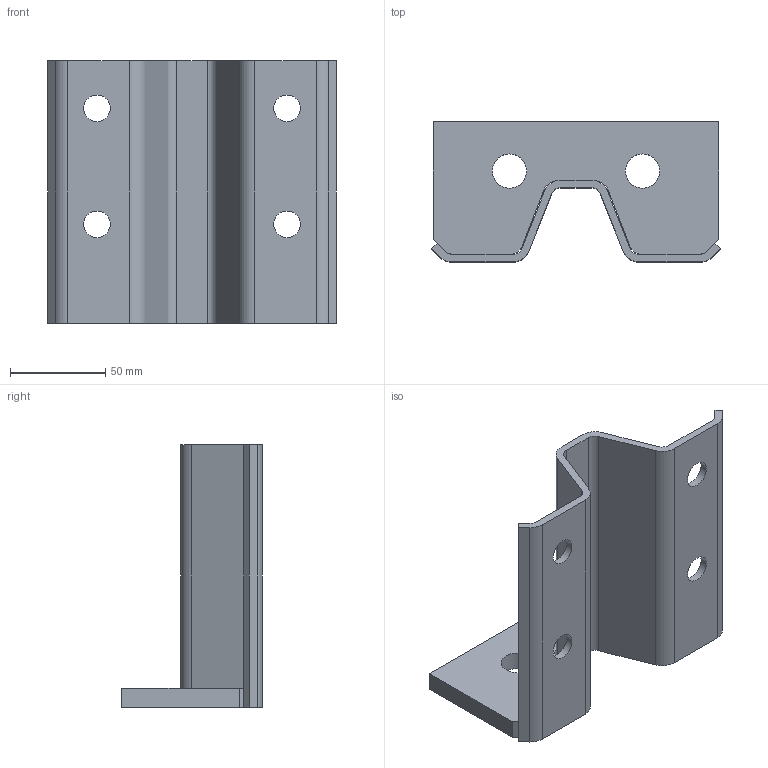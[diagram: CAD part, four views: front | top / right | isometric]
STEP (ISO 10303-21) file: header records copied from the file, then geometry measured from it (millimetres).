
FILE_DESCRIPTION(/* description */ (''),/* implementation_level */ '2;1');
FILE_NAME(/* name */ 'ZB155W70.stp',/* time_stamp */ '2023-07-03T11:24:41+02:00',/* author */ ('woriedl'),/* organization */ (''),/* preprocessor_version */ 'ST-DEVELOPER v19.2',/* originating_system */ 'AutoCAD Mechanical',/* authorisation */ '');
FILE_SCHEMA (('AUTOMOTIVE_DESIGN { 1 0 10303 214 3 1 1 }'));
Length unit declared in the file: centimetre
Products named in the file (1): Product
Bounding box: 151.72 x 74 x 138 mm (x, y, z)
Volume: 190637 mm3; surface area: 80144.6 mm2
Topology: 2 solids, 2 shells, 54 faces, 150 edges, 100 vertices
Faces by surface type: plane 30, cylinder 24
Full cylindrical faces by diameter (mm): 14 x4, 18 x2
Entity records: 1788 total; most frequent: DIRECTION 308, CARTESIAN_POINT 305, ORIENTED_EDGE 300, EDGE_CURVE 150, AXIS2_PLACEMENT_3D 103, LINE 102, VECTOR 102, VERTEX_POINT 100
